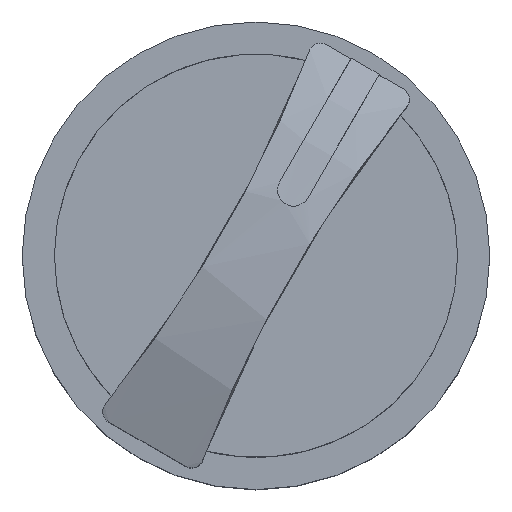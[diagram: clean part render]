
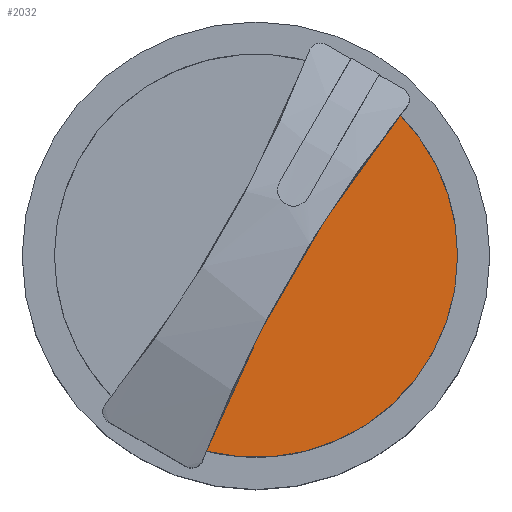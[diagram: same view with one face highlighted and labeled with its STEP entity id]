
A CAD part, top view. The second image highlights one B-rep face of the part: STEP entity #2032.
In plain terms, the highlighted planar face has unit normal (0, 0, 1).
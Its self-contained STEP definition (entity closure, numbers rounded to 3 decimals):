
#105 = CARTESIAN_POINT ( 'NONE',  ( 0., 0., 12. ) ) ;
#113 = DIRECTION ( 'NONE',  ( 1., 0., 0. ) ) ;
#306 = AXIS2_PLACEMENT_3D ( 'NONE', #105, #2309, #417 ) ;
#417 = DIRECTION ( 'NONE',  ( 1., 0., 0. ) ) ;
#464 = ORIENTED_EDGE ( 'NONE', *, *, #2834, .T. ) ;
#784 = ORIENTED_EDGE ( 'NONE', *, *, #3120, .F. ) ;
#1004 = CIRCLE ( 'NONE', #1849, 12.5 ) ;
#1029 = DIRECTION ( 'NONE',  ( 0., 0., 1. ) ) ;
#1048 = CARTESIAN_POINT ( 'NONE',  ( 72.915, -42.098, 12. ) ) ;
#1321 = FACE_OUTER_BOUND ( 'NONE', #1424, .T. ) ;
#1378 = DIRECTION ( 'NONE',  ( 1., 0., 0. ) ) ;
#1424 = EDGE_LOOP ( 'NONE', ( #784, #2451, #464 ) ) ;
#1515 = VERTEX_POINT ( 'NONE', #2408 ) ;
#1849 = AXIS2_PLACEMENT_3D ( 'NONE', #3814, #2012, #113 ) ;
#1867 = AXIS2_PLACEMENT_3D ( 'NONE', #1048, #3218, #1378 ) ;
#2012 = DIRECTION ( 'NONE',  ( 0., 0., 1. ) ) ;
#2032 = ADVANCED_FACE ( 'NONE', ( #1321 ), #2885, .T. ) ;
#2309 = DIRECTION ( 'NONE',  ( 0., 0., 1. ) ) ;
#2408 = CARTESIAN_POINT ( 'NONE',  ( 12.5, 0., 12. ) ) ;
#2451 = ORIENTED_EDGE ( 'NONE', *, *, #3127, .T. ) ;
#2680 = CIRCLE ( 'NONE', #1867, 81.695 ) ;
#2834 = EDGE_CURVE ( 'NONE', #1515, #3283, #3338, .T. ) ;
#2885 = PLANE ( 'NONE',  #306 ) ;
#2888 = CARTESIAN_POINT ( 'NONE',  ( 0., 0., 12. ) ) ;
#3120 = EDGE_CURVE ( 'NONE', #3539, #3283, #2680, .T. ) ;
#3127 = EDGE_CURVE ( 'NONE', #3539, #1515, #1004, .T. ) ;
#3201 = DIRECTION ( 'NONE',  ( 1., 0., 0. ) ) ;
#3218 = DIRECTION ( 'NONE',  ( 0., 0., -1. ) ) ;
#3283 = VERTEX_POINT ( 'NONE', #3651 ) ;
#3338 = CIRCLE ( 'NONE', #3421, 12.5 ) ;
#3421 = AXIS2_PLACEMENT_3D ( 'NONE', #2888, #1029, #3201 ) ;
#3539 = VERTEX_POINT ( 'NONE', #3790 ) ;
#3651 = CARTESIAN_POINT ( 'NONE',  ( 8.952, 8.724, 12. ) ) ;
#3790 = CARTESIAN_POINT ( 'NONE',  ( -3.079, -12.115, 12. ) ) ;
#3814 = CARTESIAN_POINT ( 'NONE',  ( 0., 0., 12. ) ) ;
